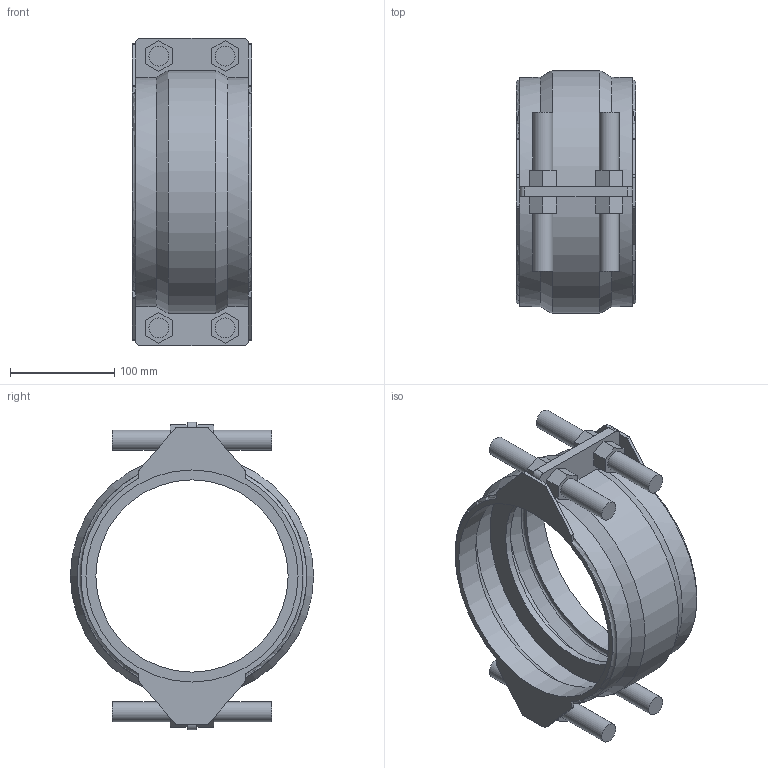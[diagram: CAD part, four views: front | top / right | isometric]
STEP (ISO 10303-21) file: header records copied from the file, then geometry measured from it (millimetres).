
FILE_DESCRIPTION(/* description */ ('VIC SS RESTRAINED COUPLING STYLE 234S (FLEX) (BRS)','CAx-IF Rec.Pracs.---Representation and Presentation of Product Manufacturing Information (PMI)---4.0---2014-10-13'),/* implementation_level */ '2;1');
FILE_NAME(/* name */ 'C:\Users\kkamble\AppData\Roaming\Autodesk\ApplicationPlugins\Back Up\Victaulic_VBSP_Coupling Flexible Restrained_Style 234S (BRS)\Victaulic_VBSP_Coupling Flexible Restrained_Style 234S (BRS)_200psi_8 (200).stp',/* time_stamp */ '2020-09-22T18:40:30+05:00',/* author */ ('Vjadhav'),/* organization */ ('Victaulic'),/* preprocessor_version */ 'ST-DEVELOPER v17.2',/* originating_system */ 'Autodesk Inventor 2019',/* authorisation */ '');
FILE_SCHEMA (('AP242_MANAGED_MODEL_BASED_3D_ENGINEERING_MIM_LF { 1 0 10303 442 1 1 4 }'));
Length unit declared in the file: inch
Products named in the file (1): Style_234S_Type_2_200psi-08.0
Bounding box: 114.3 x 232.91 x 294.64 mm (x, y, z)
Volume: 792228.9 mm3; surface area: 275316.5 mm2
Topology: 1 solids, 1 shells, 155 faces, 393 edges, 260 vertices
Faces by surface type: plane 104, cylinder 39, torus 6, cone 6
Full cylindrical faces by diameter (mm): 19.05 x8, 184.15 x1, 203.2 x2, 226.558 x2
Entity records: 5026 total; most frequent: CARTESIAN_POINT 914, DIRECTION 825, ORIENTED_EDGE 786, EDGE_CURVE 393, AXIS2_PLACEMENT_3D 279, LINE 267, VECTOR 267, VERTEX_POINT 260
